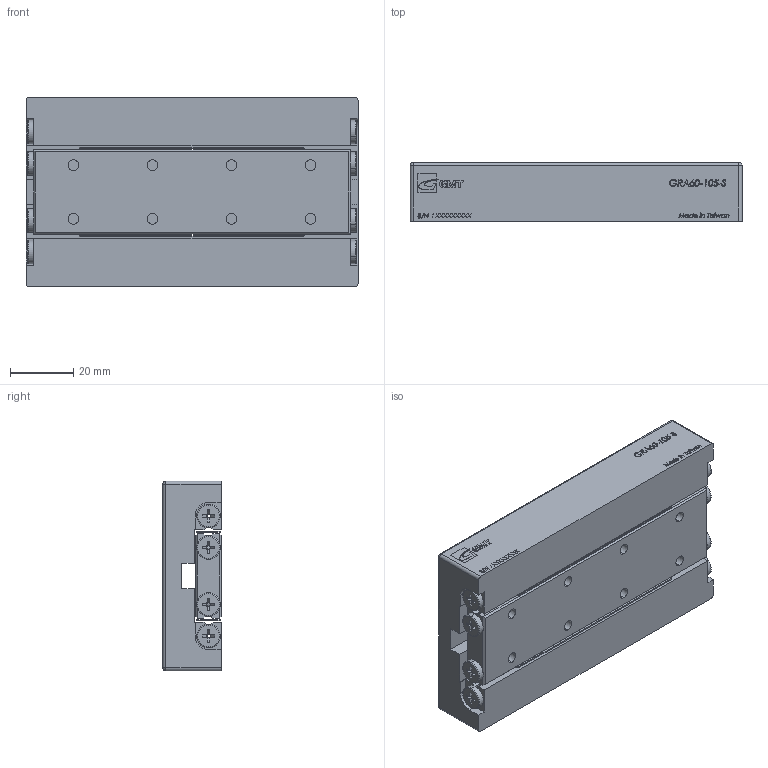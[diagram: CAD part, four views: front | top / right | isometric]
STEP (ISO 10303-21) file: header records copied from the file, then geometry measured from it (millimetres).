
FILE_DESCRIPTION (( 'STEP AP203' ), '1' );
FILE_NAME ('GRA60-105-S.STEP', '2013-12-14T06:33:11', ( '' ), ( '' ), 'SwSTEP 2.0', 'SolidWorks 2013', '' );
FILE_SCHEMA (( 'CONFIG_CONTROL_DESIGN' ));
Length unit declared in the file: millimetre
Products named in the file (1): GRA60-105-S
Bounding box: 105 x 18.5 x 60 mm (x, y, z)
Surface area: 31980 mm2 (no closed solid volume)
Topology: 0 solids, 44 shells, 390 faces, 2214 edges, 1860 vertices
Faces by surface type: plane 252, cylinder 60, torus 32, cone 32, bspline 10, sphere 4
Entity records: 26041 total; most frequent: CARTESIAN_POINT 9735, DIRECTION 2935, ORIENTED_EDGE 2932, EDGE_CURVE 2210, VERTEX_POINT 1860, VECTOR 1439, LINE 1439, AXIS2_PLACEMENT_3D 748
